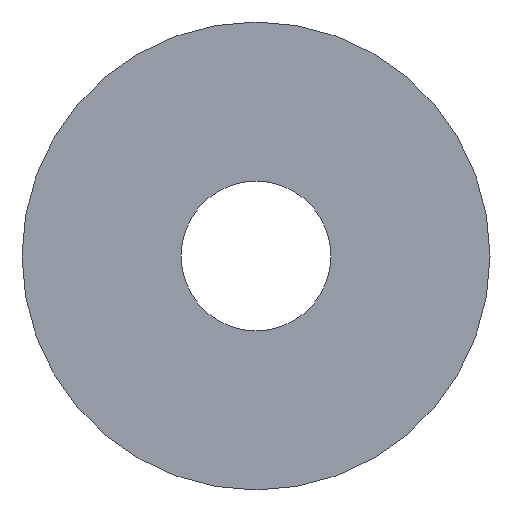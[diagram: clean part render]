
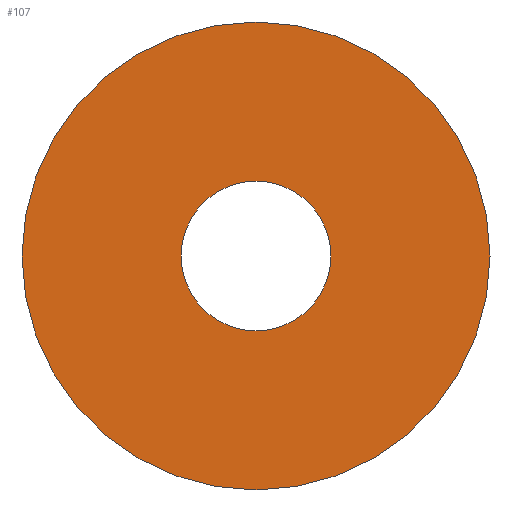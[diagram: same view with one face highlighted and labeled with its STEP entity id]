
A CAD part, front view. The second image highlights one B-rep face of the part: STEP entity #107.
In plain terms, the highlighted planar face has unit normal (0, -1, 0).
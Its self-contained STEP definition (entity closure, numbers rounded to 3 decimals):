
#27=FACE_BOUND('',#40,.T.);
#31=FACE_OUTER_BOUND('',#39,.T.);
#39=EDGE_LOOP('',(#79));
#40=EDGE_LOOP('',(#80));
#51=CIRCLE('',#130,5.);
#52=CIRCLE('',#131,1.6);
#59=VERTEX_POINT('',#185);
#60=VERTEX_POINT('',#187);
#67=EDGE_CURVE('',#59,#59,#51,.T.);
#68=EDGE_CURVE('',#60,#60,#52,.T.);
#79=ORIENTED_EDGE('',*,*,#67,.T.);
#80=ORIENTED_EDGE('',*,*,#68,.T.);
#103=PLANE('',#129);
#107=ADVANCED_FACE('',(#31,#27),#103,.F.);
#129=AXIS2_PLACEMENT_3D('',#184,#147,#148);
#130=AXIS2_PLACEMENT_3D('',#186,#149,#150);
#131=AXIS2_PLACEMENT_3D('',#188,#151,#152);
#147=DIRECTION('center_axis',(0.,1.,0.));
#148=DIRECTION('ref_axis',(0.,0.,1.));
#149=DIRECTION('center_axis',(0.,-1.,0.));
#150=DIRECTION('ref_axis',(0.866,0.,0.5));
#151=DIRECTION('center_axis',(0.,1.,0.));
#152=DIRECTION('ref_axis',(-0.5,0.,0.866));
#184=CARTESIAN_POINT('Origin',(0.,19.,-0.583));
#185=CARTESIAN_POINT('',(-4.33,19.,-2.5));
#186=CARTESIAN_POINT('Origin',(0.,19.,0.));
#187=CARTESIAN_POINT('',(0.8,19.,-1.386));
#188=CARTESIAN_POINT('Origin',(0.,19.,0.));
